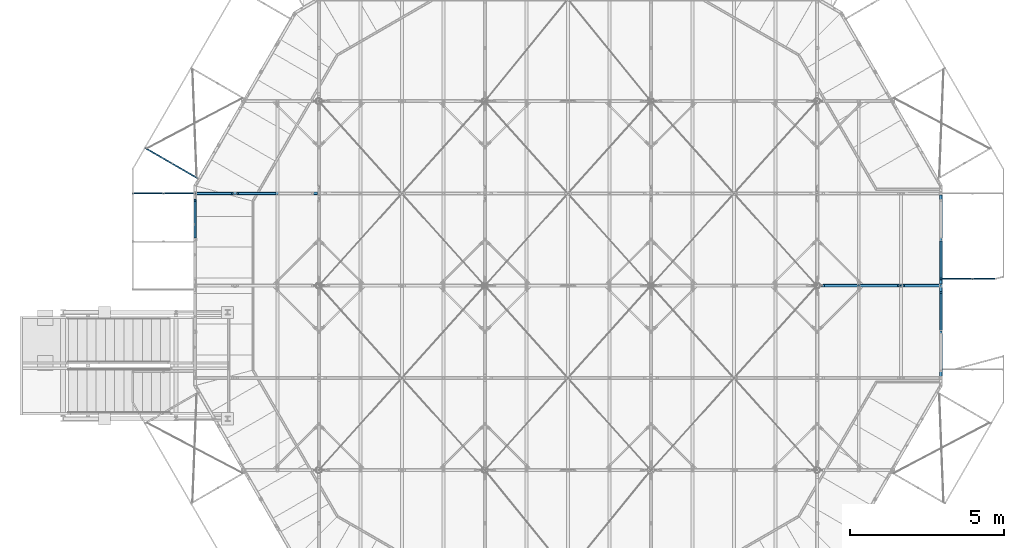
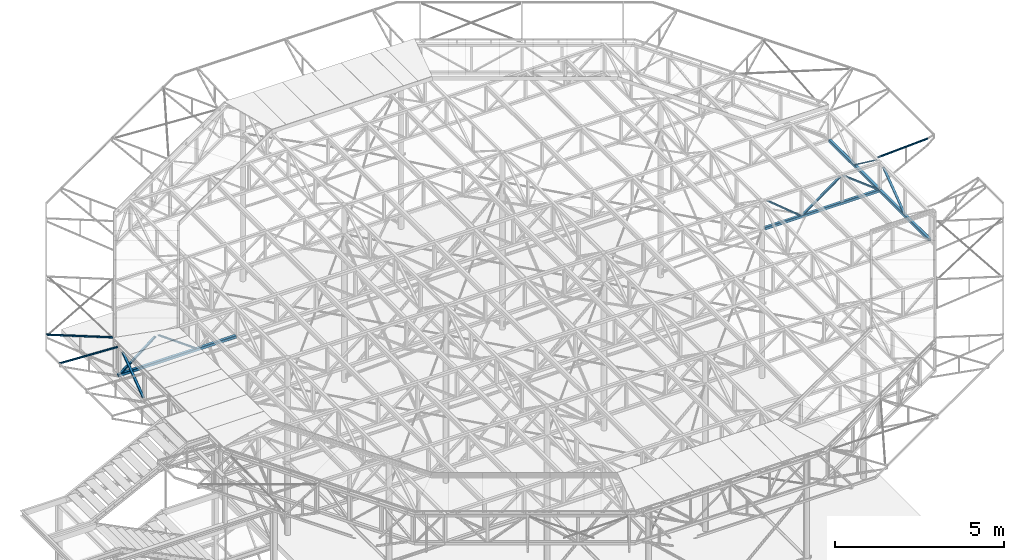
# One storey, part 51 of 132: 15 discrete accessories, 8 elements without a shape of their own.
"""IFC2X3 building model written with IfcOpenShell, lengths in millimetres."""

from ifc_helpers import new_model, si_unit, frame, origin_with_axes, origin_2d_with_axis, place, context, subcontext, project, spatial, polyline, rounded_rectangle, hollow_rectangle, circle, outline, extrude, boolean, clip, halfspace, material, type_object, element, aggregate, save


model = new_model("IFC2X3")

# Units and contexts
model_context = context("Model", 3, precision=1e-05, world=origin_with_axes())
body_context = subcontext(model_context, "Body", "Model", "MODEL_VIEW")
ifc_project = project(units=[si_unit("LENGTHUNIT", "METRE", prefix="MILLI"), si_unit("AREAUNIT", "SQUARE_METRE"), si_unit("VOLUMEUNIT", "CUBIC_METRE"), si_unit("MASSUNIT", "GRAM", prefix="KILO"), si_unit("TIMEUNIT", "SECOND"), si_unit("PLANEANGLEUNIT", "RADIAN"), si_unit("SOLIDANGLEUNIT", "STERADIAN"), si_unit("THERMODYNAMICTEMPERATUREUNIT", "DEGREE_CELSIUS"), si_unit("LUMINOUSINTENSITYUNIT", "LUMEN")], contexts=[model_context])

# Site, building, storey
site_placement = place(None, origin_with_axes())
site = spatial("IfcSite", under=ifc_project, at=site_placement, Name="Budowa", CompositionType="ELEMENT")
building_placement = place(site_placement, origin_with_axes())
building = spatial("IfcBuilding", under=site, at=building_placement, Name="Undefined", CompositionType="ELEMENT")
storey_placement = place(building_placement, origin_with_axes())
storey = spatial("IfcBuildingStorey", under=building, at=storey_placement, Name="Undefined", CompositionType="ELEMENT", Elevation=0.0)

# Assembly, discrete accessory
assembly_1_placement = place(storey_placement, origin_with_axes())
assembly_1 = element("IfcElementAssembly", 1, at=assembly_1_placement, inside=storey, Name="Steel Assembly", AssemblyPlace="NOTDEFINED", PredefinedType="RIGID_FRAME")
ifc_material = material(Name="STEEL/S235")
discrete_accessory_type = type_object("IfcDiscreteAccessoryType", Name="BEAM")
discrete_accessory_1_placement = place(assembly_1_placement, frame((24301.148440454, 12220.0000000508, 13855.031191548), z_axis=(0.0, 1.0, 0.0), x_axis=(0.998752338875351, 0.0, 0.0499376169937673)))
discrete_accessory_1 = element("IfcDiscreteAccessory", 2, at=discrete_accessory_1_placement, type_object=discrete_accessory_type, material=ifc_material, Name="BEAM", ObjectType="SHS50*4", context=body_context, shape_type="CSG", body=[
    boolean("DIFFERENCE", boolean("DIFFERENCE", extrude(hollow_rectangle(XDim=50.0, YDim=50.0, WallThickness=4.0, InnerFilletRadius=4.0, OuterFilletRadius=8.0, at=origin_2d_with_axis()), frame((2002.49843943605, 0.0, -1.81898940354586e-12), z_axis=(-1.0, 0.0, 0.0), x_axis=(0.0, -1.0, 0.0)), (0.0, 0.0, 1.0), 2005.01), extrude(outline(polyline([(0.0, 0.0), (50.4314498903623, 8.00355337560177e-11), (94.8103561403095, 337.091247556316), (25.4092159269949, 346.228088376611), (0.0, 0.0)])), frame((1704.73673152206, 113.331802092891, 24.9999999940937), z_axis=(0.0499376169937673, -0.998752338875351, 0.0), x_axis=(0.130363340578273, 0.00651816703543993, -0.991444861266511)), (0.0, 0.0, 1.0), 156.0)), halfspace(frame((-1.23691279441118e-08, -25.0000000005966, 73.1665326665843), z_axis=(-0.998752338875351, -0.0499376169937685, 0.0), x_axis=(0.0, 0.0, -1.0)), False)),
])
aggregate(assembly_1, [discrete_accessory_1])

assembly_2_placement = place(storey_placement, origin_with_axes())
assembly_2 = element("IfcElementAssembly", 3, at=assembly_2_placement, inside=storey, Name="Steel Assembly", AssemblyPlace="NOTDEFINED", PredefinedType="RIGID_FRAME")
discrete_accessory_2_placement = place(assembly_2_placement, frame((80.9365455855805, 15491.2543884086, 13855.0311915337), z_axis=(0.499969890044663, 0.866042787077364, 0.0), x_axis=(-0.864962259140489, 0.499346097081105, 0.0499376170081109)))
discrete_accessory_2 = element("IfcDiscreteAccessory", 4, at=discrete_accessory_2_placement, type_object=discrete_accessory_type, material=ifc_material, Name="BEAM", ObjectType="SHS50*4", context=body_context, shape_type="Clipping", body=[
    clip(clip(extrude(hollow_rectangle(XDim=50.0, YDim=50.0, WallThickness=4.0, InnerFilletRadius=4.0, OuterFilletRadius=8.0, at=origin_2d_with_axis()), frame((2047.80222226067, -1.81898940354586e-12, -1.00153404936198e-12), z_axis=(-1.0, 0.0, 0.0), x_axis=(0.0, -1.0, 0.0)), (0.0, 0.0, 1.0), 2120.54), halfspace(frame((2002.59894631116, 25.0000000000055, -2.91038304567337e-11), z_axis=(-0.689225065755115, 0.724547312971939, 0.0), x_axis=(0.0, 0.0, 1.0)), True)), halfspace(frame((-1.21290213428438e-08, 25.0000000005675, 73.1665326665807), z_axis=(-0.998752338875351, 0.0499376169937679, 0.0), x_axis=(-0.0499376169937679, -0.998752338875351, 0.0)), False)),
])
aggregate(assembly_2, [discrete_accessory_2])

assembly_3_placement = place(storey_placement, origin_with_axes())
assembly_3 = element("IfcElementAssembly", 5, at=assembly_3_placement, inside=storey, Name="Steel Assembly", AssemblyPlace="NOTDEFINED", PredefinedType="RIGID_FRAME")
discrete_accessory_3_placement = place(assembly_3_placement, frame((-51.1484404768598, 15000.0000000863, 13855.0311915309), z_axis=(0.0, 1.0, 0.0), x_axis=(-0.998752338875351, 0.0, 0.0499376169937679)))
discrete_accessory_3 = element("IfcDiscreteAccessory", 6, at=discrete_accessory_3_placement, type_object=discrete_accessory_type, material=ifc_material, Name="BEAM", ObjectType="SHS50*4", context=body_context, shape_type="Clipping", body=[
    clip(clip(extrude(hollow_rectangle(XDim=50.0, YDim=50.0, WallThickness=4.0, InnerFilletRadius=4.0, OuterFilletRadius=8.0, at=origin_2d_with_axis()), frame((2004.12425861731, -3.63797880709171e-12, 0.0), z_axis=(-1.0, 0.0, 0.0), x_axis=(0.0, -1.0, 0.0)), (0.0, 0.0, 1.0), 2033.18), halfspace(frame((2002.59894631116, 25.0000000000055, -2.91038304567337e-11), z_axis=(-0.689225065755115, 0.724547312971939, 0.0), x_axis=(0.0, 0.0, 1.0)), True)), halfspace(frame((-1.21290213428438e-08, 25.0000000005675, 73.1665326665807), z_axis=(-0.998752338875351, 0.0499376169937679, 0.0), x_axis=(-0.0499376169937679, -0.998752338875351, 0.0)), False)),
])
aggregate(assembly_3, [discrete_accessory_3])

# Assembly, discrete accessories
assembly_4_placement = place(storey_placement, origin_with_axes())
assembly_4 = element("IfcElementAssembly", 7, at=assembly_4_placement, inside=storey, Name="Steel Assembly", AssemblyPlace="NOTDEFINED", PredefinedType="RIGID_FRAME")
discrete_accessory_4_placement = place(assembly_4_placement, frame((24249.8999999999, 13500.000000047, 12830.0000000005), z_axis=(-1.0, 0.0, 0.0), x_axis=(0.0, -0.802498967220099, 0.596653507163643)))
solid_1 = boolean("DIFFERENCE", boolean("DIFFERENCE", extrude(rounded_rectangle(XDim=90.0, YDim=90.0, RoundingRadius=8.0, at=origin_2d_with_axis()), frame((566.820831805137, 762.3740188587, -2.91038304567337e-11), z_axis=(-0.596653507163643, -0.802498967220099, 0.0), x_axis=(0.0, 0.0, 1.0)), (0.0, 0.0, 1.0), 900.0), halfspace(frame((-235.678135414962, 1359.02752602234, -2.91038304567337e-11), z_axis=(-0.596653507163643, -0.802498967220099, 0.0), x_axis=(0.0, 0.0, 1.0)), True)), halfspace(frame((-772.666291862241, 636.778455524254, -2.91038304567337e-11), z_axis=(0.596653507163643, 0.802498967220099, 0.0), x_axis=(0.0, 0.0, -1.0)), True))
discrete_accessory_4 = element("IfcDiscreteAccessory", 8, at=discrete_accessory_4_placement, type_object=discrete_accessory_type, material=ifc_material, Name="BEAM", ObjectType="RHS80*40*4", context=body_context, shape_type="CSG", body=[
    boolean("DIFFERENCE", boolean("DIFFERENCE", boolean("DIFFERENCE", extrude(hollow_rectangle(XDim=40.0, YDim=80.0, WallThickness=4.0, InnerFilletRadius=4.0, OuterFilletRadius=8.0, at=origin_2d_with_axis()), frame((1637.41704532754, 0.0, 0.0), z_axis=(-1.0, 0.0, 0.0), x_axis=(0.0, -1.0, 0.0)), (0.0, 0.0, 1.0), 1598.82), solid_1), halfspace(frame((1646.18194282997, -40.1249483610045, 1000.0), z_axis=(-0.596653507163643, -0.802498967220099, 0.0), x_axis=(0.802498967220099, -0.596653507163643, 0.0)), True)), halfspace(frame((29.8326753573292, 40.1249483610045, 1000.0), z_axis=(0.596653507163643, 0.802498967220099, 0.0), x_axis=(-0.802498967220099, 0.596653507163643, 0.0)), True)),
])
discrete_accessory_5_placement = place(assembly_4_placement, frame((24249.9, 14950.000000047, 12830.0), z_axis=(1.0, 0.0, 0.0), x_axis=(0.0, -1.0, 0.0)))
discrete_accessory_5 = element("IfcDiscreteAccessory", 9, at=discrete_accessory_5_placement, type_object=discrete_accessory_type, material=ifc_material, Name="BEAM", ObjectType="SHS100*8", context=body_context, shape_type="SweptSolid", body=[
    extrude(hollow_rectangle(XDim=100.0, YDim=100.0, WallThickness=8.0, InnerFilletRadius=8.0, OuterFilletRadius=16.0, at=origin_2d_with_axis()), frame((2900.00000000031, 0.0, 0.0), z_axis=(-1.0, 0.0, 0.0), x_axis=(0.0, -1.0, 0.0)), (0.0, 0.0, 1.0), 2900.0),
])
aggregate(assembly_4, [discrete_accessory_4, discrete_accessory_5])

assembly_5_placement = place(storey_placement, origin_with_axes())
assembly_5 = element("IfcElementAssembly", 10, at=assembly_5_placement, inside=storey, Name="Steel Assembly", AssemblyPlace="NOTDEFINED", PredefinedType="RIGID_FRAME")
discrete_accessory_6_placement = place(assembly_5_placement, frame((24249.8999999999, 10500.000000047, 12830.0000000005), z_axis=(-1.0, 0.0, 0.0), x_axis=(0.0, 0.802498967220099, 0.596653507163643)))
solid_2 = boolean("DIFFERENCE", boolean("DIFFERENCE", extrude(hollow_rectangle(XDim=90.0, YDim=90.0, WallThickness=4.0, InnerFilletRadius=4.0, OuterFilletRadius=8.0, at=origin_2d_with_axis()), frame((566.820831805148, -762.374018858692, -2.91038304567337e-11), z_axis=(-0.596653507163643, 0.802498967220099, 0.0), x_axis=(0.0, 0.0, 1.0)), (0.0, 0.0, 1.0), 900.0), halfspace(frame((1369.31979902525, -165.720511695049, -2.91038304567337e-11), z_axis=(-0.596653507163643, 0.802498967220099, 0.0), x_axis=(0.0, 0.0, 1.0)), True)), halfspace(frame((832.33164257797, 556.528558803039, -2.91038304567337e-11), z_axis=(0.596653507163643, -0.802498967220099, 0.0), x_axis=(0.0, 0.0, -1.0)), True))
discrete_accessory_6 = element("IfcDiscreteAccessory", 11, at=discrete_accessory_6_placement, type_object=discrete_accessory_type, material=ifc_material, Name="BEAM", ObjectType="RHS80*40*4", context=body_context, shape_type="CSG", body=[
    boolean("DIFFERENCE", boolean("DIFFERENCE", boolean("DIFFERENCE", extrude(hollow_rectangle(XDim=40.0, YDim=80.0, WallThickness=4.0, InnerFilletRadius=4.0, OuterFilletRadius=8.0, at=origin_2d_with_axis()), frame((1637.41704532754, 0.0, 0.0), z_axis=(-1.0, 0.0, 0.0), x_axis=(0.0, -1.0, 0.0)), (0.0, 0.0, 1.0), 1598.82), solid_2), halfspace(frame((1646.18194282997, 40.1249483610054, 1000.0), z_axis=(-0.596653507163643, 0.802498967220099, 0.0), x_axis=(-0.8024989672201, -0.596653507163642, 0.0)), True)), halfspace(frame((29.8326753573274, -40.1249483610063, 1000.0), z_axis=(0.596653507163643, -0.802498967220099, 0.0), x_axis=(0.802498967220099, 0.596653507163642, 0.0)), True)),
])
discrete_accessory_7_placement = place(assembly_5_placement, frame((24249.9, 11950.0000000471, 12830.0), z_axis=(1.0, 0.0, 0.0), x_axis=(0.0, -1.0, 0.0)))
discrete_accessory_7 = element("IfcDiscreteAccessory", 12, at=discrete_accessory_7_placement, type_object=discrete_accessory_type, material=ifc_material, Name="BEAM", ObjectType="SHS100*8", context=body_context, shape_type="SweptSolid", body=[
    extrude(hollow_rectangle(XDim=100.0, YDim=100.0, WallThickness=8.0, InnerFilletRadius=8.0, OuterFilletRadius=16.0, at=origin_2d_with_axis()), frame((2900.00000000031, 0.0, 0.0), z_axis=(-1.0, 0.0, 0.0), x_axis=(0.0, -1.0, 0.0)), (0.0, 0.0, 1.0), 2900.0),
])
aggregate(assembly_5, [discrete_accessory_6, discrete_accessory_7])

# Assembly, discrete accessory
assembly_6_placement = place(storey_placement, origin_with_axes())
assembly_6 = element("IfcElementAssembly", 13, at=assembly_6_placement, inside=storey, Name="Steel Assembly", AssemblyPlace="NOTDEFINED", PredefinedType="RIGID_FRAME")
discrete_accessory_8_placement = place(assembly_6_placement, frame((0.0999999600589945, 13500.000000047, 12830.0000000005), z_axis=(-1.0, 0.0, 0.0), x_axis=(0.0, 0.802498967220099, 0.596653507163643)))
solid_3 = boolean("DIFFERENCE", boolean("DIFFERENCE", extrude(hollow_rectangle(XDim=90.0, YDim=90.0, WallThickness=4.0, InnerFilletRadius=4.0, OuterFilletRadius=8.0, at=origin_2d_with_axis()), frame((566.820831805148, -762.374018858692, -2.91038304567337e-11), z_axis=(-0.596653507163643, 0.802498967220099, 0.0), x_axis=(0.0, 0.0, 1.0)), (0.0, 0.0, 1.0), 900.0), halfspace(frame((1369.31979902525, -165.720511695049, -2.91038304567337e-11), z_axis=(-0.596653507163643, 0.802498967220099, 0.0), x_axis=(0.0, 0.0, 1.0)), True)), halfspace(frame((832.33164257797, 556.528558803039, -2.91038304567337e-11), z_axis=(0.596653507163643, -0.802498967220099, 0.0), x_axis=(0.0, 0.0, -1.0)), True))
discrete_accessory_8 = element("IfcDiscreteAccessory", 14, at=discrete_accessory_8_placement, type_object=discrete_accessory_type, material=ifc_material, Name="BEAM", ObjectType="RHS80*40*4", context=body_context, shape_type="CSG", body=[
    boolean("DIFFERENCE", boolean("DIFFERENCE", boolean("DIFFERENCE", extrude(hollow_rectangle(XDim=40.0, YDim=80.0, WallThickness=4.0, InnerFilletRadius=4.0, OuterFilletRadius=8.0, at=origin_2d_with_axis()), frame((1637.41704532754, 0.0, 0.0), z_axis=(-1.0, 0.0, 0.0), x_axis=(0.0, -1.0, 0.0)), (0.0, 0.0, 1.0), 1598.82), solid_3), halfspace(frame((1646.18194282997, 40.1249483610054, 1000.0), z_axis=(-0.596653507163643, 0.802498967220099, 0.0), x_axis=(-0.8024989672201, -0.596653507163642, 0.0)), True)), halfspace(frame((29.8326753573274, -40.1249483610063, 1000.0), z_axis=(0.596653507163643, -0.802498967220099, 0.0), x_axis=(0.802498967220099, 0.596653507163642, 0.0)), True)),
])
aggregate(assembly_6, [discrete_accessory_8])

# Assembly, discrete accessories
assembly_7_placement = place(storey_placement, origin_with_axes())
assembly_7 = element("IfcElementAssembly", 15, at=assembly_7_placement, inside=storey, Name="Steel Assembly", AssemblyPlace="NOTDEFINED", PredefinedType="RIGID_FRAME")
discrete_accessory_9_placement = place(assembly_7_placement, frame((1295.10000038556, 15000.0000000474, 13830.0000000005), z_axis=(0.0, -1.0, 0.0), x_axis=(0.809951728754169, 0.0, -0.586496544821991)))
solid_4 = boolean("DIFFERENCE", boolean("DIFFERENCE", extrude(hollow_rectangle(XDim=90.0, YDim=90.0, WallThickness=6.0, InnerFilletRadius=6.0, OuterFilletRadius=12.0, at=origin_2d_with_axis()), frame((1675.71505464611, 40.497585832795, 3.74711817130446e-10), z_axis=(-0.586496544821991, 0.809951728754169, 0.0), x_axis=(0.0, 0.0, 1.0)), (0.0, 0.0, 1.0), 900.0), halfspace(frame((2485.66678340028, 626.994130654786, 3.74711817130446e-10), z_axis=(-0.586496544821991, 0.809951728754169, 0.0), x_axis=(-0.809951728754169, -0.58649654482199, 0.0)), True)), halfspace(frame((1957.81989306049, 1355.95068653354, 3.74711817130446e-10), z_axis=(0.58649654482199, -0.809951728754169, 0.0), x_axis=(-0.809951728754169, -0.58649654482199, 0.0)), True))
solid_5 = boolean("DIFFERENCE", boolean("DIFFERENCE", extrude(hollow_rectangle(XDim=90.0, YDim=90.0, WallThickness=6.0, InnerFilletRadius=6.0, OuterFilletRadius=12.0, at=origin_2d_with_axis()), frame((557.171717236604, -769.454142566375, 3.74711817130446e-10), z_axis=(-0.586496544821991, 0.809951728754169, 0.0), x_axis=(0.0, 0.0, 1.0)), (0.0, 0.0, 1.0), 900.0), halfspace(frame((1367.12344599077, -182.957597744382, 3.74711817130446e-10), z_axis=(-0.586496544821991, 0.809951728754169, 0.0), x_axis=(-0.809951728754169, -0.58649654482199, 0.0)), True)), halfspace(frame((839.276555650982, 545.998958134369, 3.74711817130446e-10), z_axis=(0.58649654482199, -0.809951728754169, 0.0), x_axis=(-0.809951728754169, -0.58649654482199, 0.0)), True))
discrete_accessory_9 = element("IfcDiscreteAccessory", 16, at=discrete_accessory_9_placement, type_object=discrete_accessory_type, material=ifc_material, Name="BEAM", ObjectType="RHS90*50*5", context=body_context, shape_type="CSG", body=[
    boolean("DIFFERENCE", boolean("DIFFERENCE", boolean("DIFFERENCE", boolean("DIFFERENCE", extrude(hollow_rectangle(XDim=50.0, YDim=90.0, WallThickness=5.0, InnerFilletRadius=7.5, OuterFilletRadius=12.5, at=origin_2d_with_axis()), frame((1659.13615307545, -9.21005579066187e-14, 1.81898940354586e-12), z_axis=(-1.0, 0.0, 0.0), x_axis=(0.0, -1.0, 0.0)), (0.0, 0.0, 1.0), 1613.23), solid_4), solid_5), halfspace(frame((1675.7150554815, 40.4975864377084, 1000.0), z_axis=(-0.586496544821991, 0.809951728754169, 0.0), x_axis=(-0.809951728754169, -0.58649654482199, 0.0)), True)), halfspace(frame((29.3248272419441, -40.4975864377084, 1000.0), z_axis=(0.58649654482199, -0.809951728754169, 0.0), x_axis=(0.809951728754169, 0.58649654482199, 0.0)), True)),
])
discrete_accessory_10_placement = place(assembly_7_placement, frame((0.0999999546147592, 15000.0000000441, 12830.0000000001), z_axis=(0.0, -1.0, 0.0), x_axis=(0.791486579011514, 0.0, 0.611186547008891)))
solid_6 = boolean("DIFFERENCE", boolean("DIFFERENCE", extrude(hollow_rectangle(XDim=100.0, YDim=100.0, WallThickness=8.0, InnerFilletRadius=8.0, OuterFilletRadius=16.0, at=origin_2d_with_axis()), frame((30.5593273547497, 39.5743289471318, -2.88673618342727e-09), z_axis=(0.611186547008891, 0.791486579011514, 0.0), x_axis=(0.0, 0.0, 1.0)), (0.0, 0.0, 1.0), 900.0), halfspace(frame((822.045906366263, -571.612218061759, -2.88673618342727e-09), z_axis=(0.611186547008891, 0.791486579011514, 0.0), x_axis=(-0.791486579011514, 0.611186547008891, 0.0)), True)), halfspace(frame((1372.11379867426, 140.725703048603, -2.88673618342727e-09), z_axis=(-0.611186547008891, -0.791486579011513, 0.0), x_axis=(-0.791486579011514, 0.611186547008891, 0.0)), True))
solid_7 = boolean("DIFFERENCE", boolean("DIFFERENCE", extrude(hollow_rectangle(XDim=90.0, YDim=90.0, WallThickness=6.0, InnerFilletRadius=6.0, OuterFilletRadius=12.0, at=origin_2d_with_axis()), frame((1055.53444717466, -751.912249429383, -2.88673618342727e-09), z_axis=(0.611186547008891, 0.791486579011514, 0.0), x_axis=(0.0, 0.0, 1.0)), (0.0, 0.0, 1.0), 900.0), halfspace(frame((1847.02102618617, -1363.09879643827, -2.88673618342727e-09), z_axis=(0.611186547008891, 0.791486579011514, 0.0), x_axis=(-0.791486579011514, 0.611186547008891, 0.0)), True)), halfspace(frame((2397.08891849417, -650.760875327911, -2.88673618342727e-09), z_axis=(-0.611186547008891, -0.791486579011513, 0.0), x_axis=(-0.791486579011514, 0.611186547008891, 0.0)), True))
discrete_accessory_10 = element("IfcDiscreteAccessory", 17, at=discrete_accessory_10_placement, type_object=discrete_accessory_type, material=ifc_material, Name="BEAM", ObjectType="RHS90*50*5", context=body_context, shape_type="CSG", body=[
    boolean("DIFFERENCE", boolean("DIFFERENCE", boolean("DIFFERENCE", boolean("DIFFERENCE", extrude(hollow_rectangle(XDim=50.0, YDim=90.0, WallThickness=5.0, InnerFilletRadius=7.5, OuterFilletRadius=12.5, at=origin_2d_with_axis()), frame((1581.93293336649, 8.78149183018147e-14, 0.0), z_axis=(-1.0, 0.0, 0.0), x_axis=(0.0, -1.0, 0.0)), (0.0, 0.0, 1.0), 1527.7), solid_6), solid_7), halfspace(frame((1605.60234030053, -39.5743289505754, 1000.0), z_axis=(-0.611186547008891, -0.791486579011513, 0.0), x_axis=(0.791486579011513, -0.611186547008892, 0.0)), True)), halfspace(frame((30.5593273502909, 39.5743289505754, 1000.0), z_axis=(0.611186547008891, 0.791486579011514, 0.0), x_axis=(-0.791486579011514, 0.611186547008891, 0.0)), True)),
])
discrete_accessory_11_placement = place(assembly_7_placement, frame((3975.09999996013, 15000.000000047, 12830.0), z_axis=(0.0, -1.0, 0.0), x_axis=(-1.0, 0.0, 0.0)))
discrete_accessory_11 = element("IfcDiscreteAccessory", 18, at=discrete_accessory_11_placement, type_object=discrete_accessory_type, material=ifc_material, Name="BEAM", ObjectType="SHS100*8", context=body_context, shape_type="SweptSolid", body=[
    extrude(hollow_rectangle(XDim=100.0, YDim=100.0, WallThickness=8.0, InnerFilletRadius=8.0, OuterFilletRadius=16.0, at=origin_2d_with_axis()), frame((4025.0, 0.0, 0.0), z_axis=(-1.0, 0.0, 0.0), x_axis=(0.0, -1.0, 0.0)), (0.0, 0.0, 1.0), 4025.0),
])
aggregate(assembly_7, [discrete_accessory_9, discrete_accessory_10, discrete_accessory_11])

assembly_8_placement = place(storey_placement, origin_with_axes())
assembly_8 = element("IfcElementAssembly", 19, at=assembly_8_placement, inside=storey, Name="Steel Assembly", AssemblyPlace="NOTDEFINED", PredefinedType="RIGID_FRAME")
discrete_accessory_12_placement = place(assembly_8_placement, frame((20365.8999999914, 12000.0000000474, 13830.0000000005), z_axis=(0.0, -1.0, 0.0), x_axis=(0.77030791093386, 0.0, -0.637672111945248)))
solid_8 = boolean("DIFFERENCE", boolean("DIFFERENCE", extrude(hollow_rectangle(XDim=90.0, YDim=90.0, WallThickness=6.0, InnerFilletRadius=6.0, OuterFilletRadius=12.0, at=origin_2d_with_axis()), frame((1536.320462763, 38.5153958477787, 3.71073838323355e-10), z_axis=(-0.637672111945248, 0.770307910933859, 0.0), x_axis=(0.0, 0.0, -1.0)), (0.0, 0.0, 1.0), 900.0), halfspace(frame((766.012551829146, -599.15671609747, 3.71073838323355e-10), z_axis=(-0.637672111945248, 0.770307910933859, 0.0), x_axis=(0.0, 0.0, -1.0)), True)), halfspace(frame((192.107651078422, 94.1204037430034, 3.71073838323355e-10), z_axis=(0.637672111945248, -0.770307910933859, 0.0), x_axis=(0.0, 0.0, 1.0)), True))
discrete_accessory_12 = element("IfcDiscreteAccessory", 20, at=discrete_accessory_12_placement, type_object=discrete_accessory_type, material=ifc_material, Name="BEAM", ObjectType="RHS90*50*5", context=body_context, shape_type="CSG", body=[
    boolean("DIFFERENCE", boolean("DIFFERENCE", boolean("DIFFERENCE", extrude(hollow_rectangle(XDim=50.0, YDim=90.0, WallThickness=5.0, InnerFilletRadius=7.5, OuterFilletRadius=12.5, at=origin_2d_with_axis()), frame((1532.27723418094, -9.9455317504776e-13, 0.0), z_axis=(-1.0, 0.0, 0.0), x_axis=(0.0, -1.0, 0.0)), (0.0, 0.0, 1.0), 1496.35), solid_8), halfspace(frame((1536.32046239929, 38.5153955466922, 1000.0), z_axis=(-0.637672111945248, 0.770307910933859, 0.0), x_axis=(-0.770307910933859, -0.637672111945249, 0.0)), True)), halfspace(frame((31.8836055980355, -38.5153955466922, 1000.0), z_axis=(0.637672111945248, -0.770307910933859, 0.0), x_axis=(0.77030791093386, 0.637672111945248, 0.0)), True)),
])
discrete_accessory_13_placement = place(assembly_8_placement, frame((22954.8999995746, 12000.0000000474, 13830.0000000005), z_axis=(0.0, -1.0, 0.0), x_axis=(-0.809951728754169, 0.0, -0.586496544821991)))
solid_9 = boolean("DIFFERENCE", boolean("DIFFERENCE", extrude(hollow_rectangle(XDim=90.0, YDim=90.0, WallThickness=6.0, InnerFilletRadius=6.0, OuterFilletRadius=12.0, at=origin_2d_with_axis()), frame((1675.71505464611, -40.4975858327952, 3.72892827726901e-10), z_axis=(-0.586496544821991, -0.809951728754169, 0.0), x_axis=(0.0, 0.0, -1.0)), (0.0, 0.0, 1.0), 900.0), halfspace(frame((2485.66678340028, -626.994130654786, 3.72892827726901e-10), z_axis=(-0.586496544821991, -0.809951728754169, 0.0), x_axis=(0.0, 0.0, -1.0)), True)), halfspace(frame((1957.81989306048, -1355.95068653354, 3.72892827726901e-10), z_axis=(0.586496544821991, 0.809951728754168, 0.0), x_axis=(0.0, 0.0, 1.0)), True))
solid_10 = boolean("DIFFERENCE", boolean("DIFFERENCE", extrude(hollow_rectangle(XDim=90.0, YDim=90.0, WallThickness=6.0, InnerFilletRadius=6.0, OuterFilletRadius=12.0, at=origin_2d_with_axis()), frame((557.171717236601, 769.454142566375, 3.72892827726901e-10), z_axis=(-0.586496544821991, -0.809951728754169, 0.0), x_axis=(0.0, 0.0, -1.0)), (0.0, 0.0, 1.0), 900.0), halfspace(frame((1367.12344599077, 182.957597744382, 3.72892827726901e-10), z_axis=(-0.586496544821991, -0.809951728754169, 0.0), x_axis=(0.0, 0.0, -1.0)), True)), halfspace(frame((839.27655565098, -545.998958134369, 3.72892827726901e-10), z_axis=(0.586496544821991, 0.809951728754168, 0.0), x_axis=(0.0, 0.0, 1.0)), True))
discrete_accessory_13 = element("IfcDiscreteAccessory", 21, at=discrete_accessory_13_placement, type_object=discrete_accessory_type, material=ifc_material, Name="BEAM", ObjectType="RHS90*50*5", context=body_context, shape_type="CSG", body=[
    boolean("DIFFERENCE", boolean("DIFFERENCE", boolean("DIFFERENCE", boolean("DIFFERENCE", extrude(hollow_rectangle(XDim=50.0, YDim=90.0, WallThickness=5.0, InnerFilletRadius=7.5, OuterFilletRadius=12.5, at=origin_2d_with_axis()), frame((1659.13615307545, -9.21005579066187e-14, 1.81898940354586e-12), z_axis=(-1.0, 0.0, 0.0), x_axis=(0.0, -1.0, 0.0)), (0.0, 0.0, 1.0), 1613.23), solid_9), solid_10), halfspace(frame((1675.71505548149, -40.4975864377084, 1000.0), z_axis=(-0.586496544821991, -0.809951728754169, 0.0), x_axis=(0.80995172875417, -0.586496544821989, 0.0)), True)), halfspace(frame((29.3248272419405, 40.4975864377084, 1000.0), z_axis=(0.586496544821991, 0.809951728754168, 0.0), x_axis=(-0.809951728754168, 0.586496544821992, 0.0)), True)),
])
discrete_accessory_14_placement = place(assembly_8_placement, frame((24249.9000000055, 12000.0000000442, 12830.0000000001), z_axis=(0.0, -1.0, 0.0), x_axis=(-0.791486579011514, 0.0, 0.611186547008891)))
solid_11 = boolean("DIFFERENCE", boolean("DIFFERENCE", extrude(hollow_rectangle(XDim=100.0, YDim=100.0, WallThickness=8.0, InnerFilletRadius=8.0, OuterFilletRadius=16.0, at=origin_2d_with_axis()), frame((30.5593273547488, -39.5743289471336, -2.88309820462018e-09), z_axis=(0.611186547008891, -0.791486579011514, 0.0), x_axis=(0.0, 0.0, -1.0)), (0.0, 0.0, 1.0), 900.0), halfspace(frame((822.045906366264, 571.61221806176, -2.88309820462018e-09), z_axis=(0.611186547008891, -0.791486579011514, 0.0), x_axis=(0.0, 0.0, -1.0)), True)), halfspace(frame((1372.11379867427, -140.725703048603, -2.88309820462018e-09), z_axis=(-0.61118654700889, 0.791486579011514, 0.0), x_axis=(0.0, 0.0, 1.0)), True))
solid_12 = boolean("DIFFERENCE", boolean("DIFFERENCE", extrude(hollow_rectangle(XDim=90.0, YDim=90.0, WallThickness=6.0, InnerFilletRadius=6.0, OuterFilletRadius=12.0, at=origin_2d_with_axis()), frame((1055.53444717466, 751.912249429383, -2.88309820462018e-09), z_axis=(0.611186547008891, -0.791486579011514, 0.0), x_axis=(0.0, 0.0, -1.0)), (0.0, 0.0, 1.0), 900.0), halfspace(frame((1847.02102618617, 1363.09879643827, -2.88309820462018e-09), z_axis=(0.611186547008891, -0.791486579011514, 0.0), x_axis=(0.0, 0.0, -1.0)), True)), halfspace(frame((2397.08891849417, 650.760875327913, -2.88309820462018e-09), z_axis=(-0.61118654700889, 0.791486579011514, 0.0), x_axis=(0.0, 0.0, 1.0)), True))
discrete_accessory_14 = element("IfcDiscreteAccessory", 22, at=discrete_accessory_14_placement, type_object=discrete_accessory_type, material=ifc_material, Name="BEAM", ObjectType="RHS90*50*5", context=body_context, shape_type="CSG", body=[
    boolean("DIFFERENCE", boolean("DIFFERENCE", boolean("DIFFERENCE", boolean("DIFFERENCE", extrude(hollow_rectangle(XDim=50.0, YDim=90.0, WallThickness=5.0, InnerFilletRadius=7.5, OuterFilletRadius=12.5, at=origin_2d_with_axis()), frame((1581.93293336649, 8.78149183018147e-14, 0.0), z_axis=(-1.0, 0.0, 0.0), x_axis=(0.0, -1.0, 0.0)), (0.0, 0.0, 1.0), 1527.7), solid_11), solid_12), halfspace(frame((1605.60234030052, 39.5743289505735, 1000.0), z_axis=(-0.61118654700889, 0.791486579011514, 0.0), x_axis=(-0.791486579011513, -0.611186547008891, 0.0)), True)), halfspace(frame((30.5593273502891, -39.5743289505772, 1000.0), z_axis=(0.611186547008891, -0.791486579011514, 0.0), x_axis=(0.791486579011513, 0.611186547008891, 0.0)), True)),
])
discrete_accessory_15_placement = place(assembly_8_placement, frame((20313.9, 12000.000000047, 12830.0), z_axis=(0.0, -1.0, 0.0), x_axis=(1.0, 0.0, 0.0)))
discrete_accessory_15 = element("IfcDiscreteAccessory", 23, at=discrete_accessory_15_placement, type_object=discrete_accessory_type, material=ifc_material, Name="BEAM", ObjectType="SHS100*8", context=body_context, shape_type="CSG", body=[
    boolean("DIFFERENCE", boolean("DIFFERENCE", extrude(hollow_rectangle(XDim=100.0, YDim=100.0, WallThickness=8.0, InnerFilletRadius=8.0, OuterFilletRadius=16.0, at=origin_2d_with_axis()), frame((3986.0, 0.0, 0.0), z_axis=(-1.0, 0.0, 0.0), x_axis=(0.0, -1.0, 0.0)), (0.0, 0.0, 1.0), 4074.9), extrude(circle(Radius=89.9, at=origin_2d_with_axis()), frame((-88.9000000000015, 1950.0, -5.45696821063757e-12), z_axis=(0.0, -1.0, 0.0), x_axis=(0.0, 0.0, 1.0)), (0.0, 0.0, 1.0), 2100.0)), halfspace(frame((-88.9000000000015, -5339.0, -5.45696821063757e-12), z_axis=(-1.0, 0.0, 0.0), x_axis=(0.0, 0.0, -1.0)), False)),
])
aggregate(assembly_8, [discrete_accessory_12, discrete_accessory_13, discrete_accessory_14, discrete_accessory_15])

save(model, "model.ifc")
